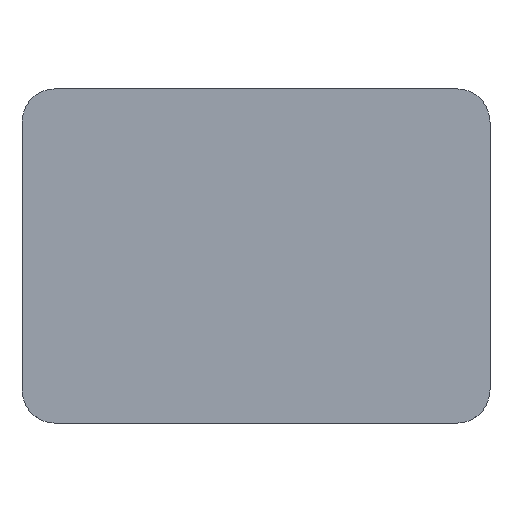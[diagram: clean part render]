
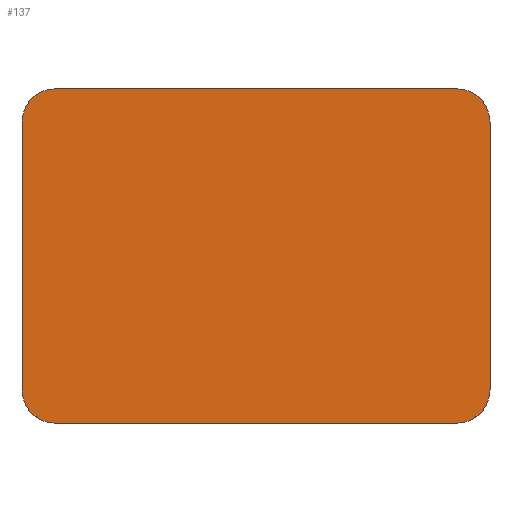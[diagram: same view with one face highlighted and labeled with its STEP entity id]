
A CAD part, top view. The second image highlights one B-rep face of the part: STEP entity #137.
In plain terms, the highlighted planar face has unit normal (0, 0, 1).
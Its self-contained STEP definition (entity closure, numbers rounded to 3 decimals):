
#21 = EDGE_CURVE('',#22,#24,#26,.T.);
#22 = VERTEX_POINT('',#23);
#23 = CARTESIAN_POINT('',(-140.,-30.,110.));
#24 = VERTEX_POINT('',#25);
#25 = CARTESIAN_POINT('',(-140.,130.,110.));
#26 = SURFACE_CURVE('',#27,(#31,#43),.PCURVE_S1.);
#27 = LINE('',#28,#29);
#28 = CARTESIAN_POINT('',(-140.,-50.,110.));
#29 = VECTOR('',#30,1.);
#30 = DIRECTION('',(0.,1.,0.));
#31 = PCURVE('',#32,#37);
#32 = PLANE('',#33);
#33 = AXIS2_PLACEMENT_3D('',#34,#35,#36);
#34 = CARTESIAN_POINT('',(-140.,-50.,104.));
#35 = DIRECTION('',(1.,0.,0.));
#36 = DIRECTION('',(0.,0.,1.));
#37 = DEFINITIONAL_REPRESENTATION('',(#38),#42);
#38 = LINE('',#39,#40);
#39 = CARTESIAN_POINT('',(6.,0.));
#40 = VECTOR('',#41,1.);
#41 = DIRECTION('',(0.,-1.));
#42 = ( GEOMETRIC_REPRESENTATION_CONTEXT(2) 
PARAMETRIC_REPRESENTATION_CONTEXT() REPRESENTATION_CONTEXT('2D SPACE',''
  ) );
#43 = PCURVE('',#44,#49);
#44 = PLANE('',#45);
#45 = AXIS2_PLACEMENT_3D('',#46,#47,#48);
#46 = CARTESIAN_POINT('',(-140.,-50.,110.));
#47 = DIRECTION('',(0.,0.,1.));
#48 = DIRECTION('',(1.,0.,0.));
#49 = DEFINITIONAL_REPRESENTATION('',(#50),#54);
#50 = LINE('',#51,#52);
#51 = CARTESIAN_POINT('',(0.,0.));
#52 = VECTOR('',#53,1.);
#53 = DIRECTION('',(0.,1.));
#54 = ( GEOMETRIC_REPRESENTATION_CONTEXT(2) 
PARAMETRIC_REPRESENTATION_CONTEXT() REPRESENTATION_CONTEXT('2D SPACE',''
  ) );
#72 = CYLINDRICAL_SURFACE('',#73,20.);
#73 = AXIS2_PLACEMENT_3D('',#74,#75,#76);
#74 = CARTESIAN_POINT('',(-120.,-30.,104.));
#75 = DIRECTION('',(0.,0.,1.));
#76 = DIRECTION('',(-1.,-0.,0.));
#126 = CYLINDRICAL_SURFACE('',#127,20.);
#127 = AXIS2_PLACEMENT_3D('',#128,#129,#130);
#128 = CARTESIAN_POINT('',(-120.,130.,104.));
#129 = DIRECTION('',(0.,0.,1.));
#130 = DIRECTION('',(-1.,-0.,0.));
#137 = ADVANCED_FACE('',(#138),#44,.T.);
#138 = FACE_BOUND('',#139,.T.);
#139 = EDGE_LOOP('',(#140,#141,#165,#193,#226,#254,#283,#311));
#140 = ORIENTED_EDGE('',*,*,#21,.F.);
#141 = ORIENTED_EDGE('',*,*,#142,.T.);
#142 = EDGE_CURVE('',#22,#143,#145,.T.);
#143 = VERTEX_POINT('',#144);
#144 = CARTESIAN_POINT('',(-120.,-50.,110.));
#145 = SURFACE_CURVE('',#146,(#151,#158),.PCURVE_S1.);
#146 = CIRCLE('',#147,20.);
#147 = AXIS2_PLACEMENT_3D('',#148,#149,#150);
#148 = CARTESIAN_POINT('',(-120.,-30.,110.));
#149 = DIRECTION('',(0.,0.,1.));
#150 = DIRECTION('',(0.,-1.,0.));
#151 = PCURVE('',#44,#152);
#152 = DEFINITIONAL_REPRESENTATION('',(#153),#157);
#153 = CIRCLE('',#154,20.);
#154 = AXIS2_PLACEMENT_2D('',#155,#156);
#155 = CARTESIAN_POINT('',(20.,20.));
#156 = DIRECTION('',(0.,-1.));
#157 = ( GEOMETRIC_REPRESENTATION_CONTEXT(2) 
PARAMETRIC_REPRESENTATION_CONTEXT() REPRESENTATION_CONTEXT('2D SPACE',''
  ) );
#158 = PCURVE('',#72,#159);
#159 = DEFINITIONAL_REPRESENTATION('',(#160),#164);
#160 = LINE('',#161,#162);
#161 = CARTESIAN_POINT('',(-4.712,6.));
#162 = VECTOR('',#163,1.);
#163 = DIRECTION('',(1.,0.));
#164 = ( GEOMETRIC_REPRESENTATION_CONTEXT(2) 
PARAMETRIC_REPRESENTATION_CONTEXT() REPRESENTATION_CONTEXT('2D SPACE',''
  ) );
#165 = ORIENTED_EDGE('',*,*,#166,.T.);
#166 = EDGE_CURVE('',#143,#167,#169,.T.);
#167 = VERTEX_POINT('',#168);
#168 = CARTESIAN_POINT('',(120.,-50.,110.));
#169 = SURFACE_CURVE('',#170,(#174,#181),.PCURVE_S1.);
#170 = LINE('',#171,#172);
#171 = CARTESIAN_POINT('',(-140.,-50.,110.));
#172 = VECTOR('',#173,1.);
#173 = DIRECTION('',(1.,0.,0.));
#174 = PCURVE('',#44,#175);
#175 = DEFINITIONAL_REPRESENTATION('',(#176),#180);
#176 = LINE('',#177,#178);
#177 = CARTESIAN_POINT('',(0.,0.));
#178 = VECTOR('',#179,1.);
#179 = DIRECTION('',(1.,0.));
#180 = ( GEOMETRIC_REPRESENTATION_CONTEXT(2) 
PARAMETRIC_REPRESENTATION_CONTEXT() REPRESENTATION_CONTEXT('2D SPACE',''
  ) );
#181 = PCURVE('',#182,#187);
#182 = PLANE('',#183);
#183 = AXIS2_PLACEMENT_3D('',#184,#185,#186);
#184 = CARTESIAN_POINT('',(-140.,-50.,104.));
#185 = DIRECTION('',(0.,1.,0.));
#186 = DIRECTION('',(0.,0.,1.));
#187 = DEFINITIONAL_REPRESENTATION('',(#188),#192);
#188 = LINE('',#189,#190);
#189 = CARTESIAN_POINT('',(6.,0.));
#190 = VECTOR('',#191,1.);
#191 = DIRECTION('',(0.,1.));
#192 = ( GEOMETRIC_REPRESENTATION_CONTEXT(2) 
PARAMETRIC_REPRESENTATION_CONTEXT() REPRESENTATION_CONTEXT('2D SPACE',''
  ) );
#193 = ORIENTED_EDGE('',*,*,#194,.F.);
#194 = EDGE_CURVE('',#195,#167,#197,.T.);
#195 = VERTEX_POINT('',#196);
#196 = CARTESIAN_POINT('',(140.,-30.,110.));
#197 = SURFACE_CURVE('',#198,(#203,#214),.PCURVE_S1.);
#198 = CIRCLE('',#199,20.);
#199 = AXIS2_PLACEMENT_3D('',#200,#201,#202);
#200 = CARTESIAN_POINT('',(120.,-30.,110.));
#201 = DIRECTION('',(-0.,-0.,-1.));
#202 = DIRECTION('',(0.,-1.,0.));
#203 = PCURVE('',#44,#204);
#204 = DEFINITIONAL_REPRESENTATION('',(#205),#213);
#205 = ( BOUNDED_CURVE() B_SPLINE_CURVE(2,(#206,#207,#208,#209,#210,#211
,#212),.UNSPECIFIED.,.T.,.F.) B_SPLINE_CURVE_WITH_KNOTS((1,2,2,2,2,1),(
    -2.094,0.,2.094,4.189,6.283,
8.378),.UNSPECIFIED.) CURVE() GEOMETRIC_REPRESENTATION_ITEM() 
RATIONAL_B_SPLINE_CURVE((1.,0.5,1.,0.5,1.,0.5,1.)) REPRESENTATION_ITEM(
  '') );
#206 = CARTESIAN_POINT('',(260.,0.));
#207 = CARTESIAN_POINT('',(225.359,0.));
#208 = CARTESIAN_POINT('',(242.679,30.));
#209 = CARTESIAN_POINT('',(260.,60.));
#210 = CARTESIAN_POINT('',(277.321,30.));
#211 = CARTESIAN_POINT('',(294.641,0.));
#212 = CARTESIAN_POINT('',(260.,0.));
#213 = ( GEOMETRIC_REPRESENTATION_CONTEXT(2) 
PARAMETRIC_REPRESENTATION_CONTEXT() REPRESENTATION_CONTEXT('2D SPACE',''
  ) );
#214 = PCURVE('',#215,#220);
#215 = CYLINDRICAL_SURFACE('',#216,20.);
#216 = AXIS2_PLACEMENT_3D('',#217,#218,#219);
#217 = CARTESIAN_POINT('',(120.,-30.,104.));
#218 = DIRECTION('',(0.,0.,1.));
#219 = DIRECTION('',(1.,0.,-0.));
#220 = DEFINITIONAL_REPRESENTATION('',(#221),#225);
#221 = LINE('',#222,#223);
#222 = CARTESIAN_POINT('',(4.712,6.));
#223 = VECTOR('',#224,1.);
#224 = DIRECTION('',(-1.,0.));
#225 = ( GEOMETRIC_REPRESENTATION_CONTEXT(2) 
PARAMETRIC_REPRESENTATION_CONTEXT() REPRESENTATION_CONTEXT('2D SPACE',''
  ) );
#226 = ORIENTED_EDGE('',*,*,#227,.T.);
#227 = EDGE_CURVE('',#195,#228,#230,.T.);
#228 = VERTEX_POINT('',#229);
#229 = CARTESIAN_POINT('',(140.,130.,110.));
#230 = SURFACE_CURVE('',#231,(#235,#242),.PCURVE_S1.);
#231 = LINE('',#232,#233);
#232 = CARTESIAN_POINT('',(140.,-50.,110.));
#233 = VECTOR('',#234,1.);
#234 = DIRECTION('',(0.,1.,0.));
#235 = PCURVE('',#44,#236);
#236 = DEFINITIONAL_REPRESENTATION('',(#237),#241);
#237 = LINE('',#238,#239);
#238 = CARTESIAN_POINT('',(280.,0.));
#239 = VECTOR('',#240,1.);
#240 = DIRECTION('',(0.,1.));
#241 = ( GEOMETRIC_REPRESENTATION_CONTEXT(2) 
PARAMETRIC_REPRESENTATION_CONTEXT() REPRESENTATION_CONTEXT('2D SPACE',''
  ) );
#242 = PCURVE('',#243,#248);
#243 = PLANE('',#244);
#244 = AXIS2_PLACEMENT_3D('',#245,#246,#247);
#245 = CARTESIAN_POINT('',(140.,-50.,104.));
#246 = DIRECTION('',(1.,0.,0.));
#247 = DIRECTION('',(0.,0.,1.));
#248 = DEFINITIONAL_REPRESENTATION('',(#249),#253);
#249 = LINE('',#250,#251);
#250 = CARTESIAN_POINT('',(6.,0.));
#251 = VECTOR('',#252,1.);
#252 = DIRECTION('',(0.,-1.));
#253 = ( GEOMETRIC_REPRESENTATION_CONTEXT(2) 
PARAMETRIC_REPRESENTATION_CONTEXT() REPRESENTATION_CONTEXT('2D SPACE',''
  ) );
#254 = ORIENTED_EDGE('',*,*,#255,.T.);
#255 = EDGE_CURVE('',#228,#256,#258,.T.);
#256 = VERTEX_POINT('',#257);
#257 = CARTESIAN_POINT('',(120.,150.,110.));
#258 = SURFACE_CURVE('',#259,(#264,#271),.PCURVE_S1.);
#259 = CIRCLE('',#260,20.);
#260 = AXIS2_PLACEMENT_3D('',#261,#262,#263);
#261 = CARTESIAN_POINT('',(120.,130.,110.));
#262 = DIRECTION('',(0.,0.,1.));
#263 = DIRECTION('',(0.,-1.,0.));
#264 = PCURVE('',#44,#265);
#265 = DEFINITIONAL_REPRESENTATION('',(#266),#270);
#266 = CIRCLE('',#267,20.);
#267 = AXIS2_PLACEMENT_2D('',#268,#269);
#268 = CARTESIAN_POINT('',(260.,180.));
#269 = DIRECTION('',(0.,-1.));
#270 = ( GEOMETRIC_REPRESENTATION_CONTEXT(2) 
PARAMETRIC_REPRESENTATION_CONTEXT() REPRESENTATION_CONTEXT('2D SPACE',''
  ) );
#271 = PCURVE('',#272,#277);
#272 = CYLINDRICAL_SURFACE('',#273,20.);
#273 = AXIS2_PLACEMENT_3D('',#274,#275,#276);
#274 = CARTESIAN_POINT('',(120.,130.,104.));
#275 = DIRECTION('',(0.,0.,1.));
#276 = DIRECTION('',(1.,0.,-0.));
#277 = DEFINITIONAL_REPRESENTATION('',(#278),#282);
#278 = LINE('',#279,#280);
#279 = CARTESIAN_POINT('',(-1.571,6.));
#280 = VECTOR('',#281,1.);
#281 = DIRECTION('',(1.,0.));
#282 = ( GEOMETRIC_REPRESENTATION_CONTEXT(2) 
PARAMETRIC_REPRESENTATION_CONTEXT() REPRESENTATION_CONTEXT('2D SPACE',''
  ) );
#283 = ORIENTED_EDGE('',*,*,#284,.F.);
#284 = EDGE_CURVE('',#285,#256,#287,.T.);
#285 = VERTEX_POINT('',#286);
#286 = CARTESIAN_POINT('',(-120.,150.,110.));
#287 = SURFACE_CURVE('',#288,(#292,#299),.PCURVE_S1.);
#288 = LINE('',#289,#290);
#289 = CARTESIAN_POINT('',(-140.,150.,110.));
#290 = VECTOR('',#291,1.);
#291 = DIRECTION('',(1.,0.,0.));
#292 = PCURVE('',#44,#293);
#293 = DEFINITIONAL_REPRESENTATION('',(#294),#298);
#294 = LINE('',#295,#296);
#295 = CARTESIAN_POINT('',(0.,200.));
#296 = VECTOR('',#297,1.);
#297 = DIRECTION('',(1.,0.));
#298 = ( GEOMETRIC_REPRESENTATION_CONTEXT(2) 
PARAMETRIC_REPRESENTATION_CONTEXT() REPRESENTATION_CONTEXT('2D SPACE',''
  ) );
#299 = PCURVE('',#300,#305);
#300 = PLANE('',#301);
#301 = AXIS2_PLACEMENT_3D('',#302,#303,#304);
#302 = CARTESIAN_POINT('',(-140.,150.,104.));
#303 = DIRECTION('',(0.,1.,0.));
#304 = DIRECTION('',(0.,0.,1.));
#305 = DEFINITIONAL_REPRESENTATION('',(#306),#310);
#306 = LINE('',#307,#308);
#307 = CARTESIAN_POINT('',(6.,0.));
#308 = VECTOR('',#309,1.);
#309 = DIRECTION('',(0.,1.));
#310 = ( GEOMETRIC_REPRESENTATION_CONTEXT(2) 
PARAMETRIC_REPRESENTATION_CONTEXT() REPRESENTATION_CONTEXT('2D SPACE',''
  ) );
#311 = ORIENTED_EDGE('',*,*,#312,.F.);
#312 = EDGE_CURVE('',#24,#285,#313,.T.);
#313 = SURFACE_CURVE('',#314,(#319,#330),.PCURVE_S1.);
#314 = CIRCLE('',#315,20.);
#315 = AXIS2_PLACEMENT_3D('',#316,#317,#318);
#316 = CARTESIAN_POINT('',(-120.,130.,110.));
#317 = DIRECTION('',(-0.,-0.,-1.));
#318 = DIRECTION('',(0.,-1.,0.));
#319 = PCURVE('',#44,#320);
#320 = DEFINITIONAL_REPRESENTATION('',(#321),#329);
#321 = ( BOUNDED_CURVE() B_SPLINE_CURVE(2,(#322,#323,#324,#325,#326,#327
,#328),.UNSPECIFIED.,.T.,.F.) B_SPLINE_CURVE_WITH_KNOTS((1,2,2,2,2,1),(
    -2.094,0.,2.094,4.189,6.283,
8.378),.UNSPECIFIED.) CURVE() GEOMETRIC_REPRESENTATION_ITEM() 
RATIONAL_B_SPLINE_CURVE((1.,0.5,1.,0.5,1.,0.5,1.)) REPRESENTATION_ITEM(
  '') );
#322 = CARTESIAN_POINT('',(20.,160.));
#323 = CARTESIAN_POINT('',(-14.641,160.));
#324 = CARTESIAN_POINT('',(2.679,190.));
#325 = CARTESIAN_POINT('',(20.,220.));
#326 = CARTESIAN_POINT('',(37.321,190.));
#327 = CARTESIAN_POINT('',(54.641,160.));
#328 = CARTESIAN_POINT('',(20.,160.));
#329 = ( GEOMETRIC_REPRESENTATION_CONTEXT(2) 
PARAMETRIC_REPRESENTATION_CONTEXT() REPRESENTATION_CONTEXT('2D SPACE',''
  ) );
#330 = PCURVE('',#126,#331);
#331 = DEFINITIONAL_REPRESENTATION('',(#332),#336);
#332 = LINE('',#333,#334);
#333 = CARTESIAN_POINT('',(1.571,6.));
#334 = VECTOR('',#335,1.);
#335 = DIRECTION('',(-1.,0.));
#336 = ( GEOMETRIC_REPRESENTATION_CONTEXT(2) 
PARAMETRIC_REPRESENTATION_CONTEXT() REPRESENTATION_CONTEXT('2D SPACE',''
  ) );
